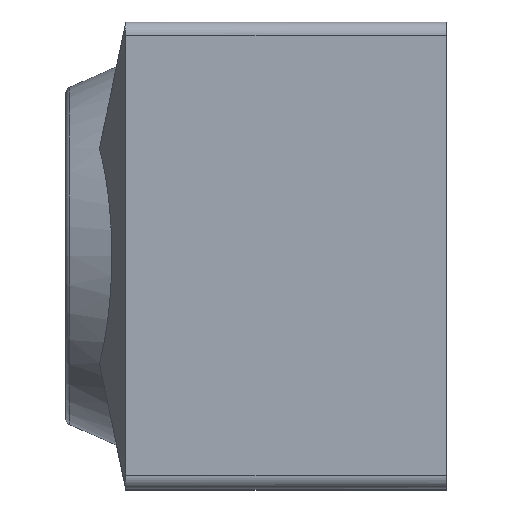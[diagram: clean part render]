
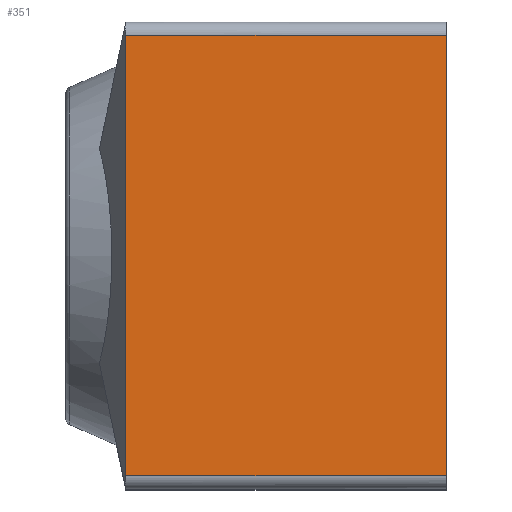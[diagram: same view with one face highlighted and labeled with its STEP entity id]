
A CAD part, top view. The second image highlights one B-rep face of the part: STEP entity #351.
In plain terms, the highlighted planar face has unit normal (0, 0, 1).
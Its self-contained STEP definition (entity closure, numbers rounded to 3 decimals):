
#20=PLANE('',#377);
#36=FACE_OUTER_BOUND('',#57,.T.);
#57=EDGE_LOOP('',(#251,#252,#253,#254));
#93=LINE('',#535,#125);
#94=LINE('',#538,#126);
#95=LINE('',#540,#127);
#96=LINE('',#541,#128);
#125=VECTOR('',#423,24.);
#126=VECTOR('',#426,33.);
#127=VECTOR('',#427,24.);
#128=VECTOR('',#428,33.);
#162=VERTEX_POINT('',#526);
#166=VERTEX_POINT('',#533);
#167=VERTEX_POINT('',#537);
#168=VERTEX_POINT('',#539);
#200=EDGE_CURVE('',#166,#162,#93,.T.);
#201=EDGE_CURVE('',#167,#166,#94,.T.);
#202=EDGE_CURVE('',#168,#167,#95,.T.);
#203=EDGE_CURVE('',#162,#168,#96,.T.);
#251=ORIENTED_EDGE('',*,*,#200,.F.);
#252=ORIENTED_EDGE('',*,*,#201,.F.);
#253=ORIENTED_EDGE('',*,*,#202,.F.);
#254=ORIENTED_EDGE('',*,*,#203,.F.);
#351=ADVANCED_FACE('',(#36),#20,.T.);
#377=AXIS2_PLACEMENT_3D('',#536,#424,#425);
#423=DIRECTION('',(1.,0.,0.));
#424=DIRECTION('center_axis',(0.,0.,1.));
#425=DIRECTION('ref_axis',(0.,-1.,0.));
#426=DIRECTION('',(0.,1.,0.));
#427=DIRECTION('',(-1.,0.,0.));
#428=DIRECTION('',(0.,-1.,0.));
#526=CARTESIAN_POINT('',(24.,16.5,17.5));
#533=CARTESIAN_POINT('',(0.,16.5,17.5));
#535=CARTESIAN_POINT('',(0.,16.5,17.5));
#536=CARTESIAN_POINT('Origin',(0.,17.5,17.5));
#537=CARTESIAN_POINT('',(0.,-16.5,17.5));
#538=CARTESIAN_POINT('',(0.,-17.5,17.5));
#539=CARTESIAN_POINT('',(24.,-16.5,17.5));
#540=CARTESIAN_POINT('',(0.,-16.5,17.5));
#541=CARTESIAN_POINT('',(24.,-17.5,17.5));
